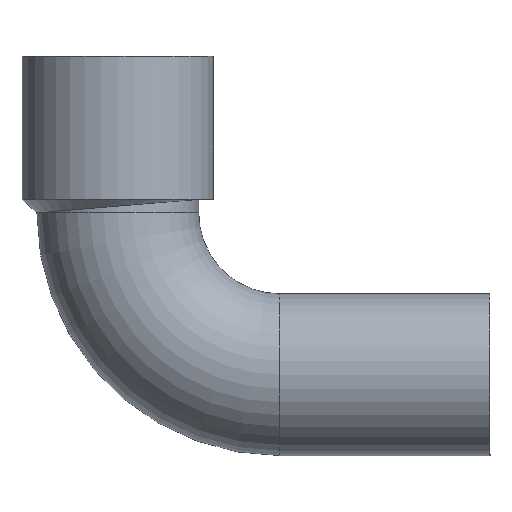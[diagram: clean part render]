
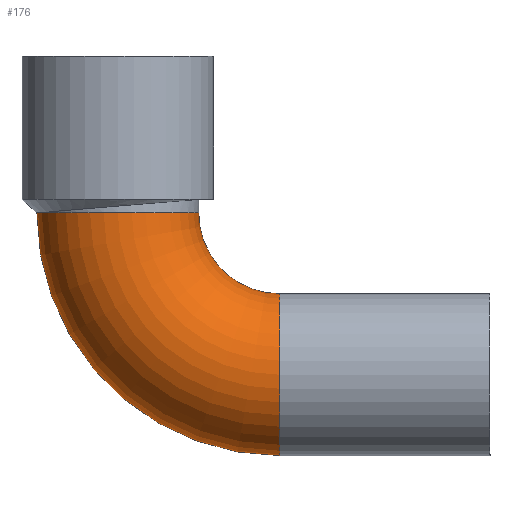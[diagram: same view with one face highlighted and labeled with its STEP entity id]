
A CAD part, front view. The second image highlights one B-rep face of the part: STEP entity #176.
In plain terms, the highlighted toroidal (fillet/blend) face has major radius 6 mm and minor radius 3 mm.
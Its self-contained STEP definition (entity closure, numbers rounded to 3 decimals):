
#133 = ORIENTED_EDGE ( 'NONE', *, *, #169, .F. ) ;
#169 = EDGE_CURVE ( 'NONE', #170, #178, #875, .T. ) ;
#170 = VERTEX_POINT ( 'NONE', #882 ) ;
#171 = EDGE_LOOP ( 'NONE', ( #133, #181, #238, #262 ) ) ;
#176 = ADVANCED_FACE ( 'NONE', ( #825 ), #842, .T. ) ;
#178 = VERTEX_POINT ( 'NONE', #876 ) ;
#181 = ORIENTED_EDGE ( 'NONE', *, *, #261, .T. ) ;
#192 = EDGE_CURVE ( 'NONE', #263, #239, #859, .T. ) ;
#219 = EDGE_CURVE ( 'NONE', #178, #239, #945, .T. ) ;
#238 = ORIENTED_EDGE ( 'NONE', *, *, #192, .T. ) ;
#239 = VERTEX_POINT ( 'NONE', #990 ) ;
#261 = EDGE_CURVE ( 'NONE', #170, #263, #1157, .T. ) ;
#262 = ORIENTED_EDGE ( 'NONE', *, *, #219, .F. ) ;
#263 = VERTEX_POINT ( 'NONE', #1104 ) ;
#825 = FACE_OUTER_BOUND ( 'NONE', #171, .T. ) ;
#826 = AXIS2_PLACEMENT_3D ( 'NONE', #870, #869, #868 ) ;
#842 = TOROIDAL_SURFACE ( 'NONE', #826, 6., 3. ) ;
#848 = AXIS2_PLACEMENT_3D ( 'NONE', #890, #889, #888 ) ;
#859 = CIRCLE ( 'NONE', #848, 3. ) ;
#868 = DIRECTION ( 'NONE',  ( 0., 0., -1. ) ) ;
#869 = DIRECTION ( 'NONE',  ( 0., -1., 0. ) ) ;
#870 = CARTESIAN_POINT ( 'NONE',  ( 6., 0., -0.5 ) ) ;
#872 = DIRECTION ( 'NONE',  ( 1., 0., 0. ) ) ;
#873 = DIRECTION ( 'NONE',  ( 0., 0., 1. ) ) ;
#874 = AXIS2_PLACEMENT_3D ( 'NONE', #880, #873, #872 ) ;
#875 = CIRCLE ( 'NONE', #874, 3. ) ;
#876 = CARTESIAN_POINT ( 'NONE',  ( 3., 0., -0.5 ) ) ;
#880 = CARTESIAN_POINT ( 'NONE',  ( 0., 0., -0.5 ) ) ;
#882 = CARTESIAN_POINT ( 'NONE',  ( -3., 0., -0.5 ) ) ;
#888 = DIRECTION ( 'NONE',  ( 0., 0., 1. ) ) ;
#889 = DIRECTION ( 'NONE',  ( -1., 0., 0. ) ) ;
#890 = CARTESIAN_POINT ( 'NONE',  ( 6., 0., -6.5 ) ) ;
#941 = DIRECTION ( 'NONE',  ( 0., 0., -1. ) ) ;
#942 = DIRECTION ( 'NONE',  ( 0., -1., 0. ) ) ;
#943 = CARTESIAN_POINT ( 'NONE',  ( 6., 0., -0.5 ) ) ;
#944 = AXIS2_PLACEMENT_3D ( 'NONE', #943, #942, #941 ) ;
#945 = CIRCLE ( 'NONE', #944, 3. ) ;
#990 = CARTESIAN_POINT ( 'NONE',  ( 6., 0., -3.5 ) ) ;
#1104 = CARTESIAN_POINT ( 'NONE',  ( 6., 0., -9.5 ) ) ;
#1146 = DIRECTION ( 'NONE',  ( 0., 0., -1. ) ) ;
#1147 = DIRECTION ( 'NONE',  ( 0., -1., 0. ) ) ;
#1148 = CARTESIAN_POINT ( 'NONE',  ( 6., 0., -0.5 ) ) ;
#1149 = AXIS2_PLACEMENT_3D ( 'NONE', #1148, #1147, #1146 ) ;
#1157 = CIRCLE ( 'NONE', #1149, 9. ) ;
